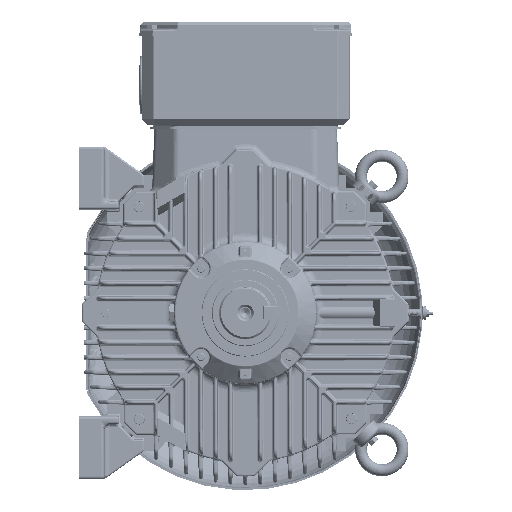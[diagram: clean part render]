
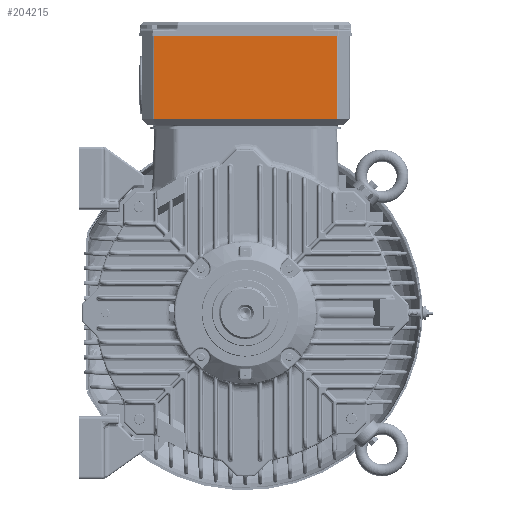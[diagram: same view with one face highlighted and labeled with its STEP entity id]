
A CAD part, front view. The second image highlights one B-rep face of the part: STEP entity #204215.
In plain terms, the highlighted planar face has unit normal (0, -1, 0).
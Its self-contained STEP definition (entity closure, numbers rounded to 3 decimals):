
#16493=LINE('',#385930,#34418);
#16494=LINE('',#385933,#34419);
#16495=LINE('',#385935,#34420);
#16496=LINE('',#385937,#34421);
#34418=VECTOR('',#326066,1000.);
#34419=VECTOR('',#326067,1000.);
#34420=VECTOR('',#326068,1000.);
#34421=VECTOR('',#326069,1000.);
#55177=ORIENTED_EDGE('',*,*,#114802,.F.);
#55178=ORIENTED_EDGE('',*,*,#114803,.T.);
#55179=ORIENTED_EDGE('',*,*,#114804,.T.);
#55180=ORIENTED_EDGE('',*,*,#114805,.T.);
#114802=EDGE_CURVE('',#144854,#144855,#16493,.T.);
#114803=EDGE_CURVE('',#144854,#144856,#16494,.T.);
#114804=EDGE_CURVE('',#144856,#144857,#16495,.T.);
#114805=EDGE_CURVE('',#144857,#144855,#16496,.T.);
#144854=VERTEX_POINT('',#385931);
#144855=VERTEX_POINT('',#385932);
#144856=VERTEX_POINT('',#385934);
#144857=VERTEX_POINT('',#385936);
#167662=EDGE_LOOP('',(#55177,#55178,#55179,#55180));
#183063=FACE_BOUND('',#167662,.T.);
#197731=PLANE('',#303465);
#204215=ADVANCED_FACE('',(#183063),#197731,.T.);
#303465=AXIS2_PLACEMENT_3D('',#385929,#326064,#326065);
#326064=DIRECTION('',(0.,-1.,0.));
#326065=DIRECTION('',(1.,0.,0.));
#326066=DIRECTION('',(0.,0.,-1.));
#326067=DIRECTION('',(-1.,0.,0.));
#326068=DIRECTION('',(0.,0.,-1.));
#326069=DIRECTION('',(1.,0.,0.));
#385929=CARTESIAN_POINT('',(155.507,23.041,468.556));
#385930=CARTESIAN_POINT('',(154.264,23.041,468.556));
#385931=CARTESIAN_POINT('',(154.264,23.041,466.056));
#385932=CARTESIAN_POINT('',(154.264,23.041,326.056));
#385933=CARTESIAN_POINT('',(155.507,23.041,466.056));
#385934=CARTESIAN_POINT('',(-153.25,22.996,466.056));
#385935=CARTESIAN_POINT('',(-153.25,22.996,468.556));
#385936=CARTESIAN_POINT('',(-153.25,22.996,326.056));
#385937=CARTESIAN_POINT('',(155.507,23.041,326.056));
